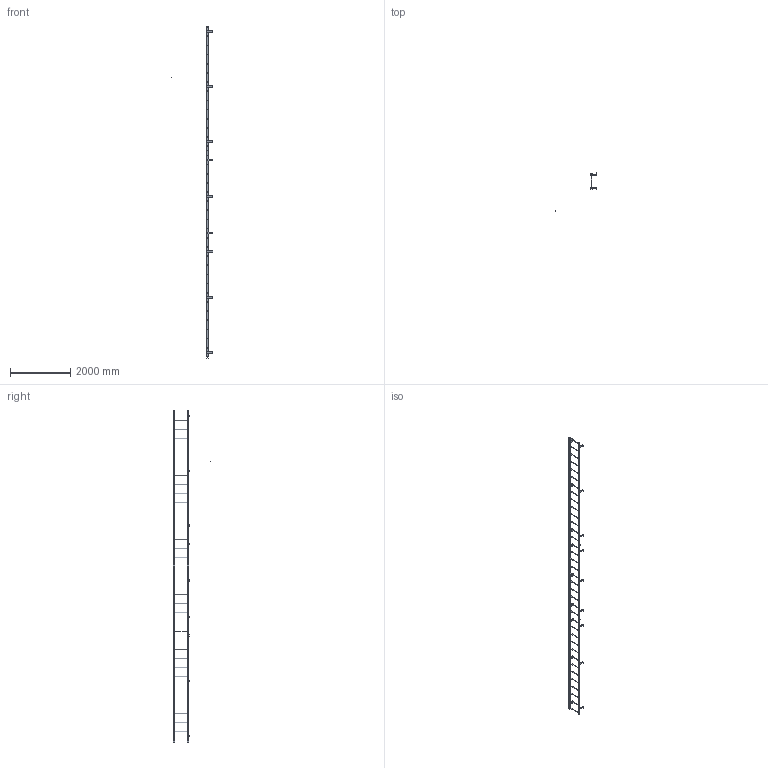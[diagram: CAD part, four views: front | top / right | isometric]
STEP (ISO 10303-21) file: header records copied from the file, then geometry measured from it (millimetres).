
FILE_DESCRIPTION(/* description */ (''),/* implementation_level */ '2;1');
FILE_NAME(/* name */ 'P:\MIKEL & KAREN\3570353 F37S SIMPLIFIED PART.stp',/* time_stamp */ '2018-07-02T16:02:00-04:00',/* author */ ('stephanie'),/* organization */ (''),/* preprocessor_version */ 'ST-DEVELOPER v16.1',/* originating_system */ 'Autodesk Inventor 2016',/* authorisation */ '');
FILE_SCHEMA (('AUTOMOTIVE_DESIGN { 1 0 10303 214 3 1 1 }'));
Length unit declared in the file: centimetre
Products named in the file (1): 3570353 F37S SIMPLIFIED PART
Bounding box: 1377 x 1262.07 x 11049 mm (x, y, z)
Volume: 19163982.7 mm3; surface area: 5755017.7 mm2
Topology: 40 solids, 40 shells, 538 faces, 1434 edges, 960 vertices
Faces by surface type: plane 314, cylinder 224
Full cylindrical faces by diameter (mm): 0.254 x1, 14.287 x22, 19.05 x37, 22.225 x74
Entity records: 16294 total; most frequent: DIRECTION 2766, CARTESIAN_POINT 2607, ORIENTED_EDGE 2408, EDGE_CURVE 1204, AXIS2_PLACEMENT_3D 1023, EDGE_LOOP 864, VERTEX_POINT 864, LINE 720
